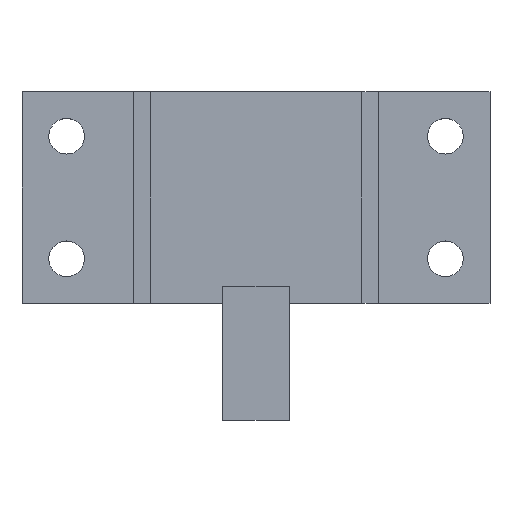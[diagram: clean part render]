
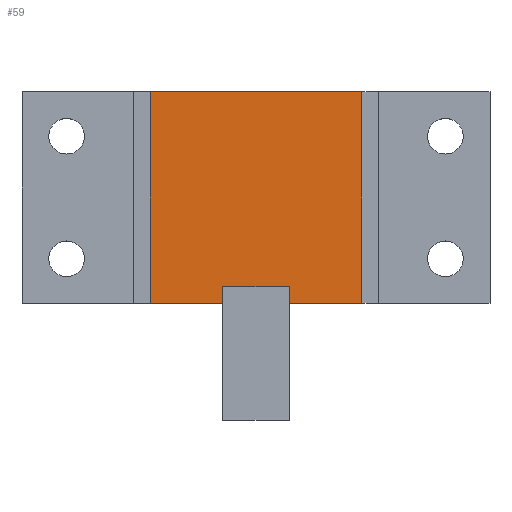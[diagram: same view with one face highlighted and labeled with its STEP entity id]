
A CAD part, top view. The second image highlights one B-rep face of the part: STEP entity #59.
In plain terms, the highlighted planar face has unit normal (0, 0, 1).
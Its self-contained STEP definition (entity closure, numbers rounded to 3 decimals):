
#59=ADVANCED_FACE('',(#276),#278,.T.);
#276=FACE_BOUND('',#277,.T.);
#277=EDGE_LOOP('',(#639,#640,#641,#642,#643,#644,#645,#646));
#278=PLANE('',#279);
#279=AXIS2_PLACEMENT_3D('',#280,#281,#282);
#280=CARTESIAN_POINT('',(0.,0.,4.7));
#281=DIRECTION('',(0.,0.,1.));
#282=DIRECTION('',(-1.,0.,0.));
#639=ORIENTED_EDGE('',*,*,#896,.T.);
#640=ORIENTED_EDGE('',*,*,#897,.T.);
#641=ORIENTED_EDGE('',*,*,#898,.T.);
#642=ORIENTED_EDGE('',*,*,#899,.F.);
#643=ORIENTED_EDGE('',*,*,#900,.F.);
#644=ORIENTED_EDGE('',*,*,#901,.F.);
#645=ORIENTED_EDGE('',*,*,#902,.T.);
#646=ORIENTED_EDGE('',*,*,#903,.T.);
#896=EDGE_CURVE('',#1058,#1059,#1060,.T.);
#897=EDGE_CURVE('',#1059,#1061,#1062,.T.);
#898=EDGE_CURVE('',#1061,#1063,#1064,.T.);
#899=EDGE_CURVE('',#1065,#1063,#1066,.T.);
#900=EDGE_CURVE('',#1067,#1065,#1068,.T.);
#901=EDGE_CURVE('',#1069,#1067,#1070,.T.);
#902=EDGE_CURVE('',#1069,#1071,#1072,.T.);
#903=EDGE_CURVE('',#1071,#1058,#1073,.T.);
#1058=VERTEX_POINT('',#1211);
#1059=VERTEX_POINT('',#1212);
#1060=LINE('',#1213,#1214);
#1061=VERTEX_POINT('',#1216);
#1062=LINE('',#1217,#1218);
#1063=VERTEX_POINT('',#1220);
#1064=LINE('',#1221,#1222);
#1065=VERTEX_POINT('',#1224);
#1066=LINE('',#1225,#1226);
#1067=VERTEX_POINT('',#1228);
#1068=LINE('',#1229,#1230);
#1069=VERTEX_POINT('',#1232);
#1070=LINE('',#1233,#1234);
#1071=VERTEX_POINT('',#1236);
#1072=LINE('',#1237,#1238);
#1073=LINE('',#1240,#1241);
#1211=CARTESIAN_POINT('',(9.5,9.5,4.7));
#1212=CARTESIAN_POINT('',(-9.5,9.5,4.7));
#1213=CARTESIAN_POINT('',(9.5,9.5,4.7));
#1214=VECTOR('',#1215,1.);
#1215=DIRECTION('',(-1.,0.,0.));
#1216=CARTESIAN_POINT('',(-9.5,-9.5,4.7));
#1217=CARTESIAN_POINT('',(-9.5,9.5,4.7));
#1218=VECTOR('',#1219,1.);
#1219=DIRECTION('',(0.,-1.,0.));
#1220=CARTESIAN_POINT('',(-3.,-9.5,4.7));
#1221=CARTESIAN_POINT('',(-9.5,-9.5,4.7));
#1222=VECTOR('',#1223,1.);
#1223=DIRECTION('',(1.,0.,0.));
#1224=CARTESIAN_POINT('',(-3.,-8.,4.7));
#1225=CARTESIAN_POINT('',(-3.,-8.,4.7));
#1226=VECTOR('',#1227,1.);
#1227=DIRECTION('',(0.,-1.,0.));
#1228=CARTESIAN_POINT('',(3.,-8.,4.7));
#1229=CARTESIAN_POINT('',(3.,-8.,4.7));
#1230=VECTOR('',#1231,1.);
#1231=DIRECTION('',(-1.,0.,0.));
#1232=CARTESIAN_POINT('',(3.,-9.5,4.7));
#1233=CARTESIAN_POINT('',(3.,-9.5,4.7));
#1234=VECTOR('',#1235,1.);
#1235=DIRECTION('',(0.,1.,0.));
#1236=CARTESIAN_POINT('',(9.5,-9.5,4.7));
#1237=CARTESIAN_POINT('',(3.,-9.5,4.7));
#1238=VECTOR('',#1239,1.);
#1239=DIRECTION('',(1.,0.,0.));
#1240=CARTESIAN_POINT('',(9.5,-9.5,4.7));
#1241=VECTOR('',#1242,1.);
#1242=DIRECTION('',(0.,1.,0.));
